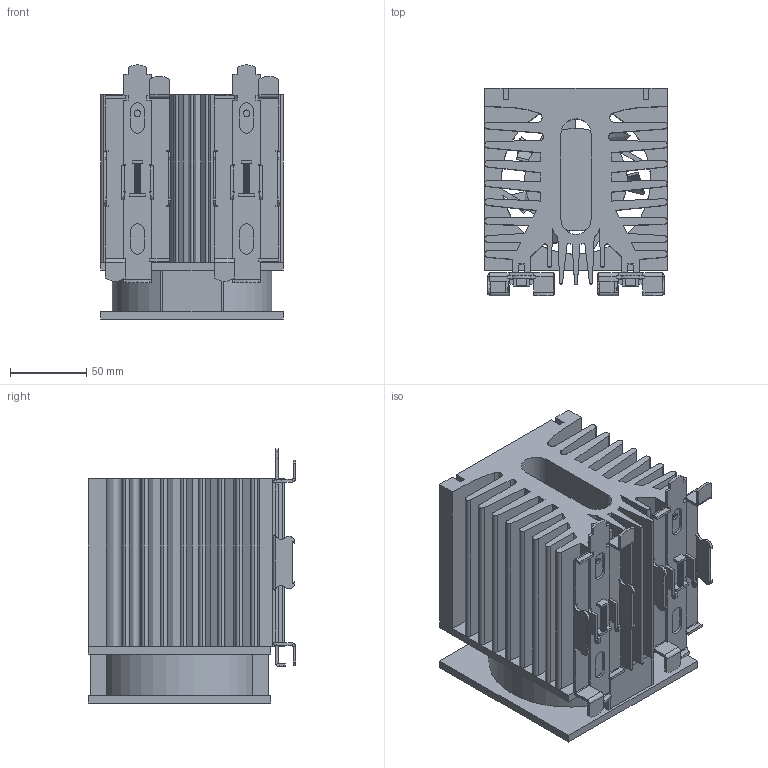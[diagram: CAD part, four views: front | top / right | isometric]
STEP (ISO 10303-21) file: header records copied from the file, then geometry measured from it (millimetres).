
FILE_DESCRIPTION (( 'STEP AP214' ), '1' );
FILE_NAME ('HP-02-F-B.STEP', '2026-05-12T03:12:15', ( '' ), ( '' ), 'SwSTEP 2.0', 'SolidWorks 2025', '' );
FILE_SCHEMA (( 'AUTOMOTIVE_DESIGN' ));
Length unit declared in the file: millimetre
Products named in the file (1): HP-02-F-B
Bounding box: 120 x 136.51 x 167.26 mm (x, y, z)
Volume: 1128800.5 mm3; surface area: 347209.4 mm2
Topology: 14 solids, 14 shells, 650 faces, 1677 edges, 1058 vertices
Faces by surface type: plane 456, cylinder 160, bspline 34
Entity records: 30278 total; most frequent: CARTESIAN_POINT 14280, ORIENTED_EDGE 3354, DIRECTION 3171, EDGE_CURVE 1677, VECTOR 1273, LINE 1273, VERTEX_POINT 1058, AXIS2_PLACEMENT_3D 949
